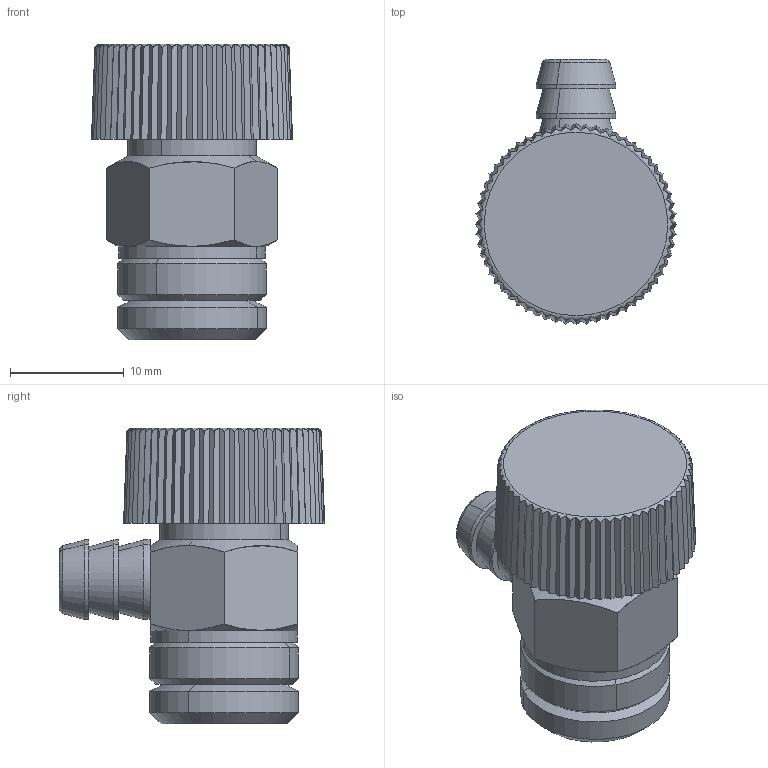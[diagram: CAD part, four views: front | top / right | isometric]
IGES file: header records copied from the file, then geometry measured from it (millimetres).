
Start section: START RECORD GO HERE.
Global section: file name: IGES_337020_CST_-_TST.igs; native system: DASSAULT SYSTEMES CATIA Version 5-6 Release 2016 - www.3ds.com; preprocessor: V5-6R2016_5.26.4.0.01-18-2017.20.00; author: Advantage; organization: CALEFFI; date: 20180110.120327; units: millimetre
Bounding box: 17.7 x 23.35 x 26.05 mm (x, y, z)
Surface area: 2042.4 mm2 (no closed solid volume)
Topology: 0 solids, 0 shells, 171 faces, 946 edges, 946 vertices
Faces by surface type: plane 135, revolution 36
